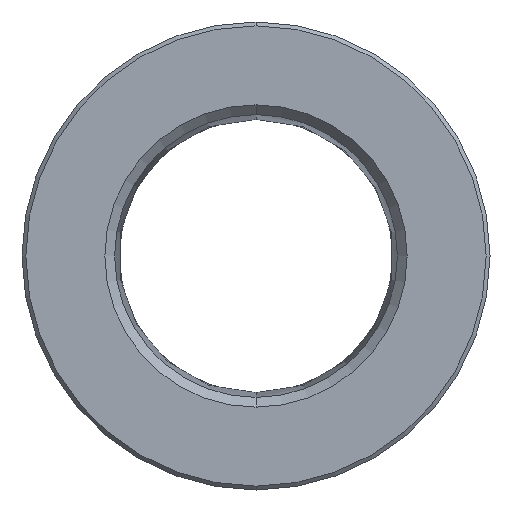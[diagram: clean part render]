
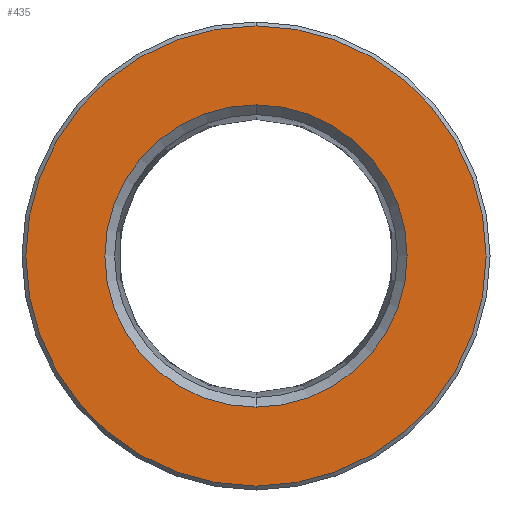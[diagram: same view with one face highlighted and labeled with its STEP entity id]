
A CAD part, front view. The second image highlights one B-rep face of the part: STEP entity #435.
In plain terms, the highlighted planar face has unit normal (0, -1, 0).
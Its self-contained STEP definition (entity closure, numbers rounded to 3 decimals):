
#39 = ORIENTED_EDGE ( 'NONE', *, *, #269, .T. ) ;
#43 = DIRECTION ( 'NONE',  ( 0., 0., -1. ) ) ;
#55 = CARTESIAN_POINT ( 'NONE',  ( 0., 0., 0. ) ) ;
#58 = EDGE_LOOP ( 'NONE', ( #615, #434 ) ) ;
#66 = AXIS2_PLACEMENT_3D ( 'NONE', #461, #364, #223 ) ;
#69 = CARTESIAN_POINT ( 'NONE',  ( 0., 0., 0. ) ) ;
#107 = CARTESIAN_POINT ( 'NONE',  ( 0., 0., -11.8 ) ) ;
#123 = AXIS2_PLACEMENT_3D ( 'NONE', #69, #126, #499 ) ;
#126 = DIRECTION ( 'NONE',  ( 0., -1., 0. ) ) ;
#148 = EDGE_CURVE ( 'NONE', #245, #197, #154, .T. ) ;
#154 = CIRCLE ( 'NONE', #123, 11.8 ) ;
#175 = DIRECTION ( 'NONE',  ( 0., 1., 0. ) ) ;
#181 = FACE_OUTER_BOUND ( 'NONE', #237, .T. ) ;
#197 = VERTEX_POINT ( 'NONE', #235 ) ;
#223 = DIRECTION ( 'NONE',  ( 0., 0., -1. ) ) ;
#235 = CARTESIAN_POINT ( 'NONE',  ( 0., 0., 11.8 ) ) ;
#237 = EDGE_LOOP ( 'NONE', ( #39, #420 ) ) ;
#245 = VERTEX_POINT ( 'NONE', #107 ) ;
#262 = VERTEX_POINT ( 'NONE', #388 ) ;
#269 = EDGE_CURVE ( 'NONE', #197, #245, #323, .T. ) ;
#272 = CARTESIAN_POINT ( 'NONE',  ( 0., 0., 0. ) ) ;
#281 = VERTEX_POINT ( 'NONE', #317 ) ;
#317 = CARTESIAN_POINT ( 'NONE',  ( 0., 0., -7.75 ) ) ;
#320 = FACE_BOUND ( 'NONE', #58, .T. ) ;
#323 = CIRCLE ( 'NONE', #578, 11.8 ) ;
#364 = DIRECTION ( 'NONE',  ( 0., -1., 0. ) ) ;
#377 = DIRECTION ( 'NONE',  ( 0., 1., 0. ) ) ;
#388 = CARTESIAN_POINT ( 'NONE',  ( 0., 0., 7.75 ) ) ;
#409 = AXIS2_PLACEMENT_3D ( 'NONE', #631, #377, #43 ) ;
#420 = ORIENTED_EDGE ( 'NONE', *, *, #148, .T. ) ;
#429 = EDGE_CURVE ( 'NONE', #262, #281, #613, .T. ) ;
#434 = ORIENTED_EDGE ( 'NONE', *, *, #429, .T. ) ;
#435 = ADVANCED_FACE ( 'NONE', ( #320, #181 ), #466, .T. ) ;
#461 = CARTESIAN_POINT ( 'NONE',  ( -12., 0., 0. ) ) ;
#466 = PLANE ( 'NONE',  #66 ) ;
#496 = AXIS2_PLACEMENT_3D ( 'NONE', #272, #175, #503 ) ;
#497 = DIRECTION ( 'NONE',  ( 0., 0., -1. ) ) ;
#499 = DIRECTION ( 'NONE',  ( 0., 0., -1. ) ) ;
#501 = DIRECTION ( 'NONE',  ( 0., -1., 0. ) ) ;
#503 = DIRECTION ( 'NONE',  ( 0., 0., -1. ) ) ;
#557 = CIRCLE ( 'NONE', #409, 7.75 ) ;
#578 = AXIS2_PLACEMENT_3D ( 'NONE', #55, #501, #497 ) ;
#604 = EDGE_CURVE ( 'NONE', #281, #262, #557, .T. ) ;
#613 = CIRCLE ( 'NONE', #496, 7.75 ) ;
#615 = ORIENTED_EDGE ( 'NONE', *, *, #604, .T. ) ;
#631 = CARTESIAN_POINT ( 'NONE',  ( 0., 0., 0. ) ) ;
